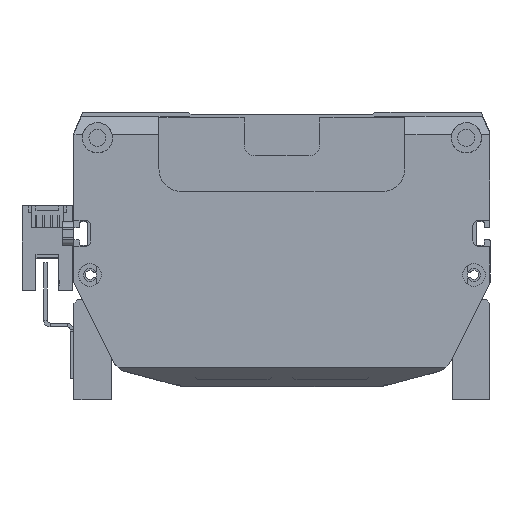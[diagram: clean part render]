
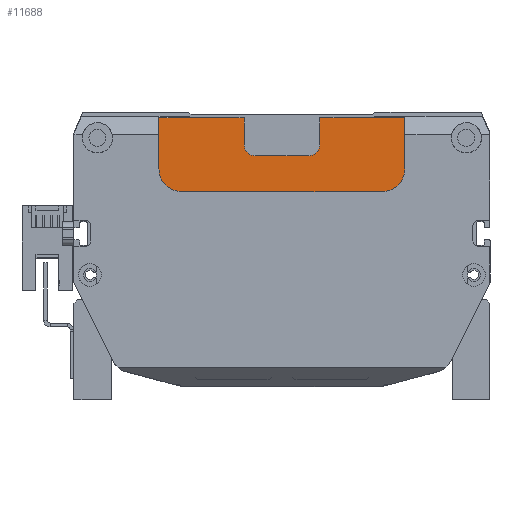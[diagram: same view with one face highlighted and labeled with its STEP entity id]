
A CAD part, front view. The second image highlights one B-rep face of the part: STEP entity #11688.
In plain terms, the highlighted planar face has unit normal (0, -1, 0) as drawn and (0, 0, -1) by its records, which use the part's own axes.
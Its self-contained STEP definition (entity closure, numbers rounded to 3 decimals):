
#42 = VERTEX_POINT ( 'NONE', #9133 ) ;
#136 = VECTOR ( 'NONE', #13588, 1000. ) ;
#230 = ORIENTED_EDGE ( 'NONE', *, *, #2082, .F. ) ;
#530 = VERTEX_POINT ( 'NONE', #17522 ) ;
#633 = CARTESIAN_POINT ( 'NONE',  ( 83.5, 0.679, 4.5 ) ) ;
#815 = VECTOR ( 'NONE', #15666, 1000. ) ;
#917 = VECTOR ( 'NONE', #11199, 1000. ) ;
#918 = DIRECTION ( 'NONE',  ( 0., -1., 0. ) ) ;
#1104 = AXIS2_PLACEMENT_3D ( 'NONE', #13506, #13658, #10152 ) ;
#1185 = CARTESIAN_POINT ( 'NONE',  ( 41., 0.679, 4.5 ) ) ;
#1197 = VERTEX_POINT ( 'NONE', #14742 ) ;
#1394 = EDGE_CURVE ( 'NONE', #1678, #1197, #14144, .T. ) ;
#1678 = VERTEX_POINT ( 'NONE', #17472 ) ;
#1853 = DIRECTION ( 'NONE',  ( -1., 0., 0. ) ) ;
#2082 = EDGE_CURVE ( 'NONE', #19742, #19509, #17457, .T. ) ;
#2212 = DIRECTION ( 'NONE',  ( 0., 0., -1. ) ) ;
#2435 = DIRECTION ( 'NONE',  ( 0., 0., -1. ) ) ;
#2733 = DIRECTION ( 'NONE',  ( 0., 0., -1. ) ) ;
#2763 = ORIENTED_EDGE ( 'NONE', *, *, #7489, .F. ) ;
#3105 = AXIS2_PLACEMENT_3D ( 'NONE', #5995, #2733, #19397 ) ;
#3339 = LINE ( 'NONE', #6204, #6669 ) ;
#3443 = LINE ( 'NONE', #19994, #11752 ) ;
#3581 = ORIENTED_EDGE ( 'NONE', *, *, #18655, .T. ) ;
#3655 = DIRECTION ( 'NONE',  ( 1., 0., 0. ) ) ;
#4785 = ORIENTED_EDGE ( 'NONE', *, *, #8409, .T. ) ;
#4820 = ORIENTED_EDGE ( 'NONE', *, *, #18175, .T. ) ;
#5030 = CARTESIAN_POINT ( 'NONE',  ( 83.5, 14.179, 4.5 ) ) ;
#5309 = ORIENTED_EDGE ( 'NONE', *, *, #21338, .T. ) ;
#5322 = CARTESIAN_POINT ( 'NONE',  ( 58., 10.679, 4.5 ) ) ;
#5995 = CARTESIAN_POINT ( 'NONE',  ( 24.5, 14.179, 4.5 ) ) ;
#6004 = VERTEX_POINT ( 'NONE', #5030 ) ;
#6194 = VECTOR ( 'NONE', #1853, 1000. ) ;
#6204 = CARTESIAN_POINT ( 'NONE',  ( 10.9, 0.679, 4.5 ) ) ;
#6304 = EDGE_LOOP ( 'NONE', ( #7956, #17290, #14128, #2763, #230, #15566, #11326, #9816, #12379, #15089, #4785, #3581, #5309, #4820 ) ) ;
#6669 = VECTOR ( 'NONE', #19549, 1000. ) ;
#6743 = CARTESIAN_POINT ( 'NONE',  ( 10.9, 0.679, 4.5 ) ) ;
#6757 = FACE_OUTER_BOUND ( 'NONE', #6304, .T. ) ;
#6892 = VERTEX_POINT ( 'NONE', #9038 ) ;
#7024 = EDGE_CURVE ( 'NONE', #8317, #11387, #15959, .T. ) ;
#7073 = VERTEX_POINT ( 'NONE', #10877 ) ;
#7489 = EDGE_CURVE ( 'NONE', #19509, #9782, #20594, .T. ) ;
#7588 = VECTOR ( 'NONE', #16689, 1000. ) ;
#7743 = LINE ( 'NONE', #6743, #6194 ) ;
#7956 = ORIENTED_EDGE ( 'NONE', *, *, #19645, .F. ) ;
#8317 = VERTEX_POINT ( 'NONE', #16243 ) ;
#8409 = EDGE_CURVE ( 'NONE', #11387, #42, #13008, .T. ) ;
#8904 = DIRECTION ( 'NONE',  ( 1., 0., 0. ) ) ;
#9038 = CARTESIAN_POINT ( 'NONE',  ( 18.5, 0.679, 4.5 ) ) ;
#9133 = CARTESIAN_POINT ( 'NONE',  ( 77.5, 20.179, 4.5 ) ) ;
#9535 = VERTEX_POINT ( 'NONE', #633 ) ;
#9782 = VERTEX_POINT ( 'NONE', #5322 ) ;
#9816 = ORIENTED_EDGE ( 'NONE', *, *, #20582, .T. ) ;
#9838 = CARTESIAN_POINT ( 'NONE',  ( 61., 7.679, 4.5 ) ) ;
#10152 = DIRECTION ( 'NONE',  ( 1., 0., 0. ) ) ;
#10362 = DIRECTION ( 'NONE',  ( 1., 0., 0. ) ) ;
#10742 = LINE ( 'NONE', #15789, #15173 ) ;
#10877 = CARTESIAN_POINT ( 'NONE',  ( 61., 0.679, 4.5 ) ) ;
#11199 = DIRECTION ( 'NONE',  ( 0., 1., 0. ) ) ;
#11326 = ORIENTED_EDGE ( 'NONE', *, *, #1394, .F. ) ;
#11387 = VERTEX_POINT ( 'NONE', #13527 ) ;
#11688 = ADVANCED_FACE ( 'NONE', ( #6757 ), #14242, .F. ) ;
#11752 = VECTOR ( 'NONE', #18946, 1000. ) ;
#12159 = AXIS2_PLACEMENT_3D ( 'NONE', #19050, #2435, #8904 ) ;
#12177 = CARTESIAN_POINT ( 'NONE',  ( 58., 7.679, 4.5 ) ) ;
#12242 = CARTESIAN_POINT ( 'NONE',  ( 58., 10.679, 4.5 ) ) ;
#12350 = DIRECTION ( 'NONE',  ( 0., 0., 1. ) ) ;
#12379 = ORIENTED_EDGE ( 'NONE', *, *, #21559, .T. ) ;
#12464 = VECTOR ( 'NONE', #3655, 1000. ) ;
#13008 = LINE ( 'NONE', #13325, #12464 ) ;
#13073 = DIRECTION ( 'NONE',  ( 0., -1., 0. ) ) ;
#13074 = CIRCLE ( 'NONE', #1104, 6. ) ;
#13096 = EDGE_CURVE ( 'NONE', #9782, #19681, #19437, .T. ) ;
#13325 = CARTESIAN_POINT ( 'NONE',  ( 18.5, 20.179, 4.5 ) ) ;
#13506 = CARTESIAN_POINT ( 'NONE',  ( 77.5, 14.179, 4.5 ) ) ;
#13527 = CARTESIAN_POINT ( 'NONE',  ( 24.5, 20.179, 4.5 ) ) ;
#13588 = DIRECTION ( 'NONE',  ( -1., 0., 0. ) ) ;
#13658 = DIRECTION ( 'NONE',  ( 0., 0., -1. ) ) ;
#14030 = DIRECTION ( 'NONE',  ( 1., 0., 0. ) ) ;
#14128 = ORIENTED_EDGE ( 'NONE', *, *, #13096, .F. ) ;
#14144 = LINE ( 'NONE', #14893, #7588 ) ;
#14242 = PLANE ( 'NONE',  #17408 ) ;
#14355 = EDGE_CURVE ( 'NONE', #19681, #7073, #21161, .T. ) ;
#14742 = CARTESIAN_POINT ( 'NONE',  ( 41., 0.679, 4.5 ) ) ;
#14893 = CARTESIAN_POINT ( 'NONE',  ( 10.9, 0.679, 4.5 ) ) ;
#15089 = ORIENTED_EDGE ( 'NONE', *, *, #7024, .T. ) ;
#15173 = VECTOR ( 'NONE', #918, 1000. ) ;
#15566 = ORIENTED_EDGE ( 'NONE', *, *, #20197, .F. ) ;
#15603 = CARTESIAN_POINT ( 'NONE',  ( 44., 10.679, 4.5 ) ) ;
#15666 = DIRECTION ( 'NONE',  ( 1., 0., 0. ) ) ;
#15789 = CARTESIAN_POINT ( 'NONE',  ( 83.5, 20.179, 4.5 ) ) ;
#15959 = CIRCLE ( 'NONE', #3105, 6. ) ;
#16243 = CARTESIAN_POINT ( 'NONE',  ( 18.5, 14.179, 4.5 ) ) ;
#16689 = DIRECTION ( 'NONE',  ( 1., 0., 0. ) ) ;
#16701 = CARTESIAN_POINT ( 'NONE',  ( 10.9, 0.679, 4.5 ) ) ;
#17290 = ORIENTED_EDGE ( 'NONE', *, *, #14355, .F. ) ;
#17408 = AXIS2_PLACEMENT_3D ( 'NONE', #20947, #12350, #14030 ) ;
#17457 = CIRCLE ( 'NONE', #12159, 3. ) ;
#17472 = CARTESIAN_POINT ( 'NONE',  ( 27., 0.679, 4.5 ) ) ;
#17522 = CARTESIAN_POINT ( 'NONE',  ( 75., 0.679, 4.5 ) ) ;
#18095 = CARTESIAN_POINT ( 'NONE',  ( 61., 0.679, 4.5 ) ) ;
#18175 = EDGE_CURVE ( 'NONE', #9535, #530, #7743, .T. ) ;
#18655 = EDGE_CURVE ( 'NONE', #42, #6004, #13074, .T. ) ;
#18946 = DIRECTION ( 'NONE',  ( 0., 1., 0. ) ) ;
#19050 = CARTESIAN_POINT ( 'NONE',  ( 44., 7.679, 4.5 ) ) ;
#19226 = CARTESIAN_POINT ( 'NONE',  ( 41., 7.679, 4.5 ) ) ;
#19397 = DIRECTION ( 'NONE',  ( 1., 0., 0. ) ) ;
#19437 = CIRCLE ( 'NONE', #19842, 3. ) ;
#19509 = VERTEX_POINT ( 'NONE', #15603 ) ;
#19549 = DIRECTION ( 'NONE',  ( 1., 0., 0. ) ) ;
#19597 = VECTOR ( 'NONE', #13073, 1000. ) ;
#19644 = LINE ( 'NONE', #1185, #917 ) ;
#19645 = EDGE_CURVE ( 'NONE', #7073, #530, #3339, .T. ) ;
#19681 = VERTEX_POINT ( 'NONE', #9838 ) ;
#19742 = VERTEX_POINT ( 'NONE', #19226 ) ;
#19842 = AXIS2_PLACEMENT_3D ( 'NONE', #12177, #2212, #10362 ) ;
#19994 = CARTESIAN_POINT ( 'NONE',  ( 18.5, 20.179, 4.5 ) ) ;
#20197 = EDGE_CURVE ( 'NONE', #1197, #19742, #19644, .T. ) ;
#20424 = LINE ( 'NONE', #16701, #136 ) ;
#20582 = EDGE_CURVE ( 'NONE', #1678, #6892, #20424, .T. ) ;
#20594 = LINE ( 'NONE', #12242, #815 ) ;
#20947 = CARTESIAN_POINT ( 'NONE',  ( 0., 0., 4.5 ) ) ;
#21161 = LINE ( 'NONE', #18095, #19597 ) ;
#21338 = EDGE_CURVE ( 'NONE', #6004, #9535, #10742, .T. ) ;
#21559 = EDGE_CURVE ( 'NONE', #6892, #8317, #3443, .T. ) ;
